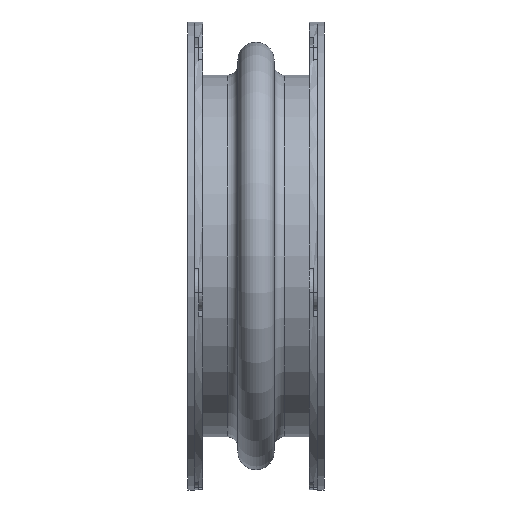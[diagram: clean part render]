
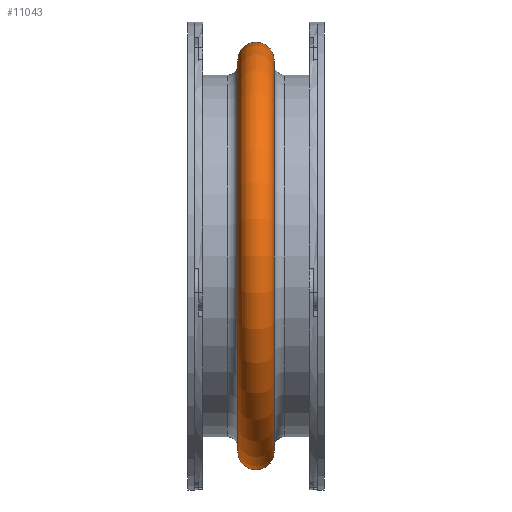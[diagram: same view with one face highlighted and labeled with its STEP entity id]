
A CAD part, front view. The second image highlights one B-rep face of the part: STEP entity #11043.
In plain terms, the highlighted toroidal (fillet/blend) face has major radius 292.1 mm and minor radius 26.988 mm.
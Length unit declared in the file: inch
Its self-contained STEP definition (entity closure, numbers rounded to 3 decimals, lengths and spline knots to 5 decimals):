
#20=TOROIDAL_SURFACE('',#12166,11.5,1.0625);
#203=FACE_BOUND('',#1860,.T.);
#1090=FACE_OUTER_BOUND('',#1859,.T.);
#1859=EDGE_LOOP('',(#8506));
#1860=EDGE_LOOP('',(#8507));
#3906=CIRCLE('',#12165,11.52205);
#3907=CIRCLE('',#12167,11.52205);
#4923=VERTEX_POINT('',#18255);
#4924=VERTEX_POINT('',#18258);
#6220=EDGE_CURVE('',#4923,#4923,#3906,.T.);
#6221=EDGE_CURVE('',#4924,#4924,#3907,.T.);
#8506=ORIENTED_EDGE('',*,*,#6221,.F.);
#8507=ORIENTED_EDGE('',*,*,#6220,.T.);
#11043=ADVANCED_FACE('',(#1090,#203),#20,.T.);
#12165=AXIS2_PLACEMENT_3D('',#18256,#14847,#14848);
#12166=AXIS2_PLACEMENT_3D('',#18257,#14849,#14850);
#12167=AXIS2_PLACEMENT_3D('',#18259,#14851,#14852);
#14847=DIRECTION('center_axis',(1.,0.,0.));
#14848=DIRECTION('ref_axis',(0.,0.,-1.));
#14849=DIRECTION('center_axis',(1.,0.,0.));
#14850=DIRECTION('ref_axis',(0.,0.,-1.));
#14851=DIRECTION('center_axis',(1.,0.,0.));
#14852=DIRECTION('ref_axis',(0.,0.,-1.));
#18255=CARTESIAN_POINT('',(-1.06227,11.52205,0.));
#18256=CARTESIAN_POINT('Origin',(-1.06227,0.,
0.));
#18257=CARTESIAN_POINT('Origin',(0.,0.,
0.));
#18258=CARTESIAN_POINT('',(1.06227,11.52205,0.));
#18259=CARTESIAN_POINT('Origin',(1.06227,0.,
0.));
